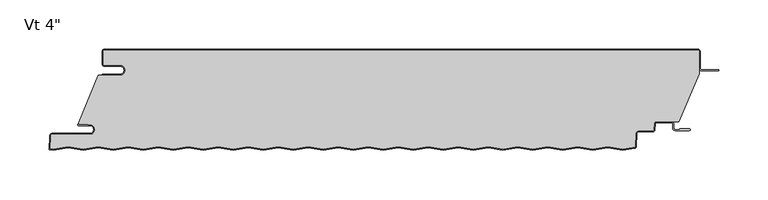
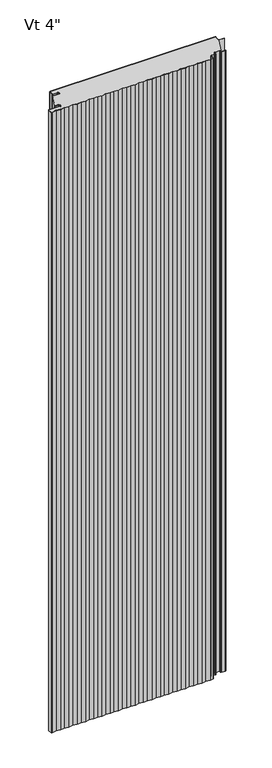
"""IFC4 building model written with IfcOpenShell, lengths in millimetres: plate geometry."""

from ifc_helpers import new_model, si_unit, point, frame, frame_2d, origin, origin_with_axes, place, context, project, spatial, polyline, circle_curve, ellipse_curve, trimmed, segment, composite_curve, outline, extrude, source, transform, mapped, element, save
from ifc_brep_helpers import plane_surface, cylinder_surface, revolved_surface, extruded_surface, advanced_brep


def plate_ed56b437(model_context):
    return source(origin(), model_context, "Body", "SolidModel", [
        extrude(outline(composite_curve([segment(polyline([(-285.74375, -16.4625), (-301.61875, -16.4625)]), True, "CONTINUOUS"), segment(trimmed(circle_curve(frame_2d((-301.61875, -15.08125)), 1.38125), [point((-301.61875, -16.4625))], [point((-303.0, -15.08125))], False, "CARTESIAN"), True, "CONTINUOUS"), segment(polyline([(-303.0, -15.08125), (-303.0, -2.38125)]), True, "CONTINUOUS"), segment(trimmed(circle_curve(frame_2d((-301.61875, -2.38125)), 1.38125), [point((-303.0, -2.38125))], [point((-301.61875, -1.0))], False, "CARTESIAN"), True, "CONTINUOUS"), segment(polyline([(-301.61875, -1.0), (301.63125, -1.0)]), True, "CONTINUOUS"), segment(trimmed(circle_curve(frame_2d((301.63125, -2.38125)), 1.38125), [point((301.63125, -1.0))], [point((303.0125, -2.38125))], False, "CARTESIAN"), True, "CONTINUOUS"), segment(polyline([(303.0125, -2.38125), (303.0125, -24.9057308), (282.1955434, -73.6125), (259.7540783, -73.6125)]), True, "CONTINUOUS"), segment(trimmed(circle_curve(frame_2d((259.7540783, -76.2)), 2.5875), [point((259.7540783, -73.6125))], [point((257.1701244, -76.0645807))], True, "CARTESIAN"), True, "CONTINUOUS"), segment(polyline([(257.1701244, -76.0645807), (256.8680481, -81.828539)]), True, "CONTINUOUS"), segment(trimmed(circle_curve(frame_2d((255.4886911, -81.75625)), 1.38125), [point((256.8680481, -81.828539))], [point((255.4886911, -83.1375))], False, "CARTESIAN"), True, "CONTINUOUS"), segment(polyline([(255.4886911, -83.1375), (241.3323847, -83.1375)]), True, "CONTINUOUS"), segment(trimmed(circle_curve(frame_2d((241.3323847, -85.725)), 2.5875), [point((241.3323847, -83.1375))], [point((238.7484307, -85.5895807))], True, "CARTESIAN"), True, "CONTINUOUS"), segment(polyline([(238.7484307, -85.5895807), (238.0106485, -99.6673048), (225.2725, -101.7054086), (210.2350675, -99.2994194), (194.9950675, -101.7378194), (179.7550675, -99.2994194), (164.5150675, -101.7378194), (149.2750675, -99.2994194), (134.0350675, -101.7378194), (118.7950675, -99.2994194), (103.5550675, -101.7378194), (88.3150675, -99.2994194), (73.0750675, -101.7378194), (57.8350675, -99.2994194), (42.5950675, -101.7378194), (27.3550675, -99.2994194), (12.1150675, -101.7378194), (-3.1249325, -99.2994194), (-18.3649325, -101.7378194), (-33.6049325, -99.2994194), (-48.8449325, -101.7378194), (-64.0849325, -99.2994194), (-79.3249325, -101.7378194), (-94.5649325, -99.2994194), (-109.8049325, -101.7378194), (-125.0449325, -99.2994194), (-140.2849325, -101.7378194), (-155.5249325, -99.2994194), (-170.7649325, -101.7378194), (-186.0049325, -99.2994194), (-201.2449325, -101.7378194), (-216.4849325, -99.2994194), (-231.7249325, -101.7378194), (-246.9649325, -99.2994194), (-262.2049325, -101.7378194), (-277.4449325, -99.2994194), (-292.6849325, -101.7378194), (-307.9249325, -99.2994194), (-323.1649325, -101.7378194), (-338.4049325, -99.2994194), (-353.6449325, -101.7378194), (-356.9672594, -101.2062471), (-356.2769291, -88.033961)]), True, "CONTINUOUS"), segment(trimmed(circle_curve(frame_2d((-354.8975721, -88.10625)), 1.38125), [point((-356.2769291, -88.033961))], [point((-354.8975721, -86.725))], False, "CARTESIAN"), True, "CONTINUOUS"), segment(polyline([(-354.8975721, -86.725), (-316.7142674, -86.725)]), True, "CONTINUOUS"), segment(trimmed(circle_curve(frame_2d((-316.7142674, -81.75625)), 4.96875), [point((-316.7142674, -86.725))], [point((-316.7142674, -76.7875))], True, "CARTESIAN"), True, "CONTINUOUS"), segment(polyline([(-316.7142674, -76.7875), (-318.3017674, -76.99375), (-318.3017674, -76.2), (-327.8125, -76.2), (-327.8125, -74.6157227), (-307.9260922, -26.4), (-285.74375, -26.4)]), True, "CONTINUOUS"), segment(trimmed(circle_curve(frame_2d((-285.74375, -21.43125)), 4.96875), [point((-285.74375, -26.4))], [point((-285.74375, -16.4625))], True, "CARTESIAN"), True, "CONTINUOUS")], self_intersect=False)), origin_with_axes(), (0.0, 0.0, 1.0), 2400.0),
        extrude(outline(composite_curve([segment(polyline([(-304.0, -25.4), (-285.74375, -25.4)]), True, "CONTINUOUS"), segment(trimmed(circle_curve(frame_2d((-285.74375, -21.43125)), 3.96875), [point((-285.74375, -25.4))], [point((-285.74375, -17.4625))], True, "CARTESIAN"), True, "CONTINUOUS"), segment(polyline([(-285.74375, -17.4625), (-301.61875, -17.4625)]), True, "CONTINUOUS"), segment(trimmed(circle_curve(frame_2d((-301.61875, -15.08125)), 2.38125), [point((-301.61875, -17.4625))], [point((-304.0, -15.08125))], False, "CARTESIAN"), True, "CONTINUOUS"), segment(polyline([(-304.0, -15.08125), (-304.0, -2.38125)]), True, "CONTINUOUS"), segment(trimmed(circle_curve(frame_2d((-301.61875, -2.38125)), 2.38125), [point((-304.0, -2.38125))], [point((-301.61875, 0.0))], False, "CARTESIAN"), True, "CONTINUOUS"), segment(polyline([(-301.61875, 0.0), (301.63125, 0.0)]), True, "CONTINUOUS"), segment(trimmed(circle_curve(frame_2d((301.63125, -2.38125)), 2.38125), [point((301.63125, 0.0))], [point((304.0125, -2.38125))], False, "CARTESIAN"), True, "CONTINUOUS"), segment(polyline([(304.0125, -2.38125), (304.0125, -19.446875)]), True, "CONTINUOUS"), segment(trimmed(circle_curve(frame_2d((305.6, -19.446875)), 1.5875), [point((304.0125, -19.446875))], [point((305.6, -21.034375))], True, "CARTESIAN"), True, "CONTINUOUS"), segment(polyline([(305.6, -21.034375), (323.0625, -21.034375), (323.0625, -22.034375), (305.6, -22.034375)]), True, "CONTINUOUS"), segment(trimmed(circle_curve(frame_2d((305.6, -19.446875)), 2.5875), [point((305.6, -22.034375))], [point((303.0125, -19.446875))], False, "CARTESIAN"), True, "CONTINUOUS"), segment(polyline([(303.0125, -19.446875), (303.0125, -2.38125)]), True, "CONTINUOUS"), segment(trimmed(circle_curve(frame_2d((301.63125, -2.38125)), 1.38125), [point((303.0125, -2.38125))], [point((301.63125, -1.0))], True, "CARTESIAN"), True, "CONTINUOUS"), segment(polyline([(301.63125, -1.0), (-301.61875, -1.0)]), True, "CONTINUOUS"), segment(trimmed(circle_curve(frame_2d((-301.61875, -2.38125)), 1.38125), [point((-301.61875, -1.0))], [point((-303.0, -2.38125))], True, "CARTESIAN"), True, "CONTINUOUS"), segment(polyline([(-303.0, -2.38125), (-303.0, -15.08125)]), True, "CONTINUOUS"), segment(trimmed(circle_curve(frame_2d((-301.61875, -15.08125)), 1.38125), [point((-303.0, -15.08125))], [point((-301.61875, -16.4625))], True, "CARTESIAN"), True, "CONTINUOUS"), segment(polyline([(-301.61875, -16.4625), (-285.74375, -16.4625)]), True, "CONTINUOUS"), segment(trimmed(circle_curve(frame_2d((-285.74375, -21.43125)), 4.96875), [point((-285.74375, -16.4625))], [point((-285.74375, -26.4))], False, "CARTESIAN"), True, "CONTINUOUS"), segment(polyline([(-285.74375, -26.4), (-304.0, -26.4), (-304.0, -25.4)]), True, "CONTINUOUS")], self_intersect=False)), origin_with_axes(), (0.0, 0.0, 1.0), 2400.0),
        advanced_brep(
        [(-328.0252049, -76.2, 2400.0), (-328.0252049, -77.7875, 2400.0), (-316.7142674, -77.7875, 2400.0), (-316.7142674, -85.725, 2400.0), (-354.8975721, -85.725, 2400.0), (-357.2755586, -87.981625, 2400.0), (-358.01832, -102.1543553, 2400.0), (-353.6646686, -102.8509395, 2400.0), (-338.4246686, -100.4125395, 2400.0), (-323.1846686, -102.8509395, 2400.0), (-307.9446686, -100.4125395, 2400.0), (-292.7046686, -102.8509395, 2400.0), (-277.4646686, -100.4125395, 2400.0), (-262.2246686, -102.8509395, 2400.0), (-246.9846686, -100.4125395, 2400.0), (-231.7446686, -102.8509395, 2400.0), (-216.5046686, -100.4125395, 2400.0), (-201.2646686, -102.8509395, 2400.0), (-186.0246686, -100.4125395, 2400.0), (-170.7846686, -102.8509395, 2400.0), (-155.5446686, -100.4125395, 2400.0), (-140.3046686, -102.8509395, 2400.0), (-125.0646686, -100.4125395, 2400.0), (-109.8246686, -102.8509395, 2400.0), (-94.5846686, -100.4125395, 2400.0), (-79.3446686, -102.8509395, 2400.0), (-64.1046686, -100.4125395, 2400.0), (-48.8646686, -102.8509395, 2400.0), (-33.6246686, -100.4125395, 2400.0), (-18.3846686, -102.8509395, 2400.0), (-3.1446686, -100.4125395, 2400.0), (12.0953314, -102.8509395, 2400.0), (27.3353314, -100.4125395, 2400.0), (42.5753314, -102.8509395, 2400.0), (57.8153314, -100.4125395, 2400.0), (73.0553314, -102.8509395, 2400.0), (88.2953314, -100.4125395, 2400.0), (103.5353314, -102.8509395, 2400.0), (118.7753314, -100.4125395, 2400.0), (134.0153314, -102.8509395, 2400.0), (149.2553314, -100.4125395, 2400.0), (164.4953314, -102.8509395, 2400.0), (179.7353314, -100.4125395, 2400.0), (194.9753314, -102.8509395, 2400.0), (210.2153314, -100.4125395, 2400.0), (225.2527639, -102.8185287, 2400.0), (237.6944828, -100.8278537, 2400.0), (239.0289973, -99.343375, 2400.0), (239.7470603, -85.6419167, 2400.0), (241.3323847, -84.1375, 2400.0), (255.4886911, -84.1375, 2400.0), (257.8666776, -81.880875, 2400.0), (258.1687539, -76.1169167, 2400.0), (259.7540783, -74.6125, 2400.0), (274.6294826, -74.6125, 2400.0), (276.2169826, -76.2, 2400.0), (276.2169826, -80.3671875, 2400.0), (278.5982326, -82.7484375, 2400.0), (293.0898532, -82.7484375, 2400.0), (293.0898532, -80.9546875, 2400.0), (283.3607326, -80.9546875, 2400.0), (283.3607326, -81.7484375, 2400.0), (278.5982326, -81.7484375, 2400.0), (277.2169826, -80.3671875, 2400.0), (277.2169826, -76.2, 2400.0), (274.6294826, -73.6125, 2400.0), (259.7540783, -73.6125, 2400.0), (257.1701244, -76.0645807, 2400.0), (256.8680481, -81.828539, 2400.0), (255.4886911, -83.1375, 2400.0), (241.3323847, -83.1375, 2400.0), (238.7484307, -85.5895807, 2400.0), (238.0303677, -99.291039, 2400.0), (237.5364923, -99.840413, 2400.0), (225.2527639, -101.8058096, 2400.0), (210.2153314, -99.3998204, 2400.0), (194.9753314, -101.8382204, 2400.0), (179.7353314, -99.3998204, 2400.0), (164.4953314, -101.8382204, 2400.0), (149.2553314, -99.3998204, 2400.0), (134.0153314, -101.8382204, 2400.0), (118.7753314, -99.3998204, 2400.0), (103.5353314, -101.8382204, 2400.0), (88.2953314, -99.3998204, 2400.0), (73.0553314, -101.8382204, 2400.0), (57.8153314, -99.3998204, 2400.0), (42.5753314, -101.8382204, 2400.0), (27.3353314, -99.3998204, 2400.0), (12.0953314, -101.8382204, 2400.0), (-3.1446686, -99.3998204, 2400.0), (-18.3846686, -101.8382204, 2400.0), (-33.6246686, -99.3998204, 2400.0), (-48.8646686, -101.8382204, 2400.0), (-64.1046686, -99.3998204, 2400.0), (-79.3446686, -101.8382204, 2400.0), (-94.5846686, -99.3998204, 2400.0), (-109.8246686, -101.8382204, 2400.0), (-125.0646686, -99.3998204, 2400.0), (-140.3046686, -101.8382204, 2400.0), (-155.5446686, -99.3998204, 2400.0), (-170.7846686, -101.8382204, 2400.0), (-186.0246686, -99.3998204, 2400.0), (-201.2646686, -101.8382204, 2400.0), (-216.5046686, -99.3998204, 2400.0), (-231.7446686, -101.8382204, 2400.0), (-246.9846686, -99.3998204, 2400.0), (-262.2246686, -101.8382204, 2400.0), (-277.4646686, -99.3998204, 2400.0), (-292.7046686, -101.8382204, 2400.0), (-307.9446686, -99.3998204, 2400.0), (-323.1846686, -101.8382204, 2400.0), (-338.4246686, -99.3998204, 2400.0), (-353.6646686, -101.8382204, 2400.0), (-356.9726415, -101.3089447, 2400.0), (-356.2769291, -88.033961, 2400.0), (-354.8975721, -86.725, 2400.0), (-316.7142674, -86.725, 2400.0), (-316.7142674, -76.7875, 2400.0), (-318.3017674, -76.99375, 2400.0), (-318.3017674, -76.2, 2400.0), (-328.0252049, -76.2, 0.0), (-318.3017674, -76.2, 0.0), (-318.3017674, -76.99375, 0.0), (-316.7142674, -76.7875, 0.0), (-316.7142674, -86.725, 0.0), (-354.8975721, -86.725, 0.0), (-356.2769291, -88.033961, 0.0), (-356.9726415, -101.3089447, 0.0), (-353.6646686, -101.8382204, 0.0), (-338.4246686, -99.3998204, 0.0), (-323.1846686, -101.8382204, 0.0), (-307.9446686, -99.3998204, 0.0), (-292.7046686, -101.8382204, 0.0), (-277.4646686, -99.3998204, 0.0), (-262.2246686, -101.8382204, 0.0), (-246.9846686, -99.3998204, 0.0), (-231.7446686, -101.8382204, 0.0), (-216.5046686, -99.3998204, 0.0), (-201.2646686, -101.8382204, 0.0), (-186.0246686, -99.3998204, 0.0), (-170.7846686, -101.8382204, 0.0), (-155.5446686, -99.3998204, 0.0), (-140.3046686, -101.8382204, 0.0), (-125.0646686, -99.3998204, 0.0), (-109.8246686, -101.8382204, 0.0), (-94.5846686, -99.3998204, 0.0), (-79.3446686, -101.8382204, 0.0), (-64.1046686, -99.3998204, 0.0), (-48.8646686, -101.8382204, 0.0), (-33.6246686, -99.3998204, 0.0), (-18.3846686, -101.8382204, 0.0), (-3.1446686, -99.3998204, 0.0), (12.0953314, -101.8382204, 0.0), (27.3353314, -99.3998204, 0.0), (42.5753314, -101.8382204, 0.0), (57.8153314, -99.3998204, 0.0), (73.0553314, -101.8382204, 0.0), (88.2953314, -99.3998204, 0.0), (103.5353314, -101.8382204, 0.0), (118.7753314, -99.3998204, 0.0), (134.0153314, -101.8382204, 0.0), (149.2553314, -99.3998204, 0.0), (164.4953314, -101.8382204, 0.0), (179.7353314, -99.3998204, 0.0), (194.9753314, -101.8382204, 0.0), (210.2153314, -99.3998204, 0.0), (225.2527639, -101.8058096, 0.0), (237.5364923, -99.840413, 0.0), (238.0303677, -99.291039, 0.0), (238.7484307, -85.5895807, 0.0), (241.3323847, -83.1375, 0.0), (255.4886911, -83.1375, 0.0), (256.8680481, -81.828539, 0.0), (257.1701244, -76.0645807, 0.0), (259.7540783, -73.6125, 0.0), (274.6294826, -73.6125, 0.0), (277.2169826, -76.2, 0.0), (277.2169826, -80.3671875, 0.0), (278.5982326, -81.7484375, 0.0), (283.3607326, -81.7484375, 0.0), (283.3607326, -80.9546875, 0.0), (293.0898532, -80.9546875, 0.0), (293.0898532, -82.7484375, 0.0), (278.5982326, -82.7484375, 0.0), (276.2169826, -80.3671875, 0.0), (276.2169826, -76.2, 0.0), (274.6294826, -74.6125, 0.0), (259.7540783, -74.6125, 0.0), (258.1687539, -76.1169167, 0.0), (257.8666776, -81.880875, 0.0), (255.4886911, -84.1375, 0.0), (241.3323847, -84.1375, 0.0), (239.7470603, -85.6419167, 0.0), (239.0289973, -99.343375, 0.0), (237.6944828, -100.8278537, 0.0), (225.2527639, -102.8185287, 0.0), (210.2153314, -100.4125395, 0.0), (194.9753314, -102.8509395, 0.0), (179.7353314, -100.4125395, 0.0), (164.4953314, -102.8509395, 0.0), (149.2553314, -100.4125395, 0.0), (134.0153314, -102.8509395, 0.0), (118.7753314, -100.4125395, 0.0), (103.5353314, -102.8509395, 0.0), (88.2953314, -100.4125395, 0.0), (73.0553314, -102.8509395, 0.0), (57.8153314, -100.4125395, 0.0), (42.5753314, -102.8509395, 0.0), (27.3353314, -100.4125395, 0.0), (12.0953314, -102.8509395, 0.0), (-3.1446686, -100.4125395, 0.0), (-18.3846686, -102.8509395, 0.0), (-33.6246686, -100.4125395, 0.0), (-48.8646686, -102.8509395, 0.0), (-64.1046686, -100.4125395, 0.0), (-79.3446686, -102.8509395, 0.0), (-94.5846686, -100.4125395, 0.0), (-109.8246686, -102.8509395, 0.0), (-125.0646686, -100.4125395, 0.0), (-140.3046686, -102.8509395, 0.0), (-155.5446686, -100.4125395, 0.0), (-170.7846686, -102.8509395, 0.0), (-186.0246686, -100.4125395, 0.0), (-201.2646686, -102.8509395, 0.0), (-216.5046686, -100.4125395, 0.0), (-231.7446686, -102.8509395, 0.0), (-246.9846686, -100.4125395, 0.0), (-262.2246686, -102.8509395, 0.0), (-277.4646686, -100.4125395, 0.0), (-292.7046686, -102.8509395, 0.0), (-307.9446686, -100.4125395, 0.0), (-323.1846686, -102.8509395, 0.0), (-338.4246686, -100.4125395, 0.0), (-353.6646686, -102.8509395, 0.0), (-358.01832, -102.1543553, 0.0), (-357.2755586, -87.981625, 0.0), (-354.8975721, -85.725, 0.0), (-316.7142674, -85.725, 0.0), (-316.7142674, -77.7875, 0.0), (-328.0252049, -77.7875, 0.0)],
        [
            (0, 1, circle_curve(frame((-328.0252049, -76.99375, 2400.0), z_axis=(0.0, 0.0, 1.0), x_axis=(1.0, 0.0, 0.0)), 0.79375)),
            (1, 2),
            (2, 3, circle_curve(frame((-316.7142674, -81.75625, 2400.0), z_axis=(0.0, 0.0, -1.0), x_axis=(1.0, 0.0, 0.0)), 3.96875)),
            (3, 4),
            (4, 5, circle_curve(frame((-354.8975721, -88.10625, 2400.0), z_axis=(0.0, 0.0, 1.0), x_axis=(1.0, 0.0, 0.0)), 2.38125)),
            (5, 6),
            (6, 7),
            (7, 8),
            (8, 9),
            (9, 10),
            (10, 11),
            (11, 12),
            (12, 13),
            (13, 14),
            (14, 15),
            (15, 16),
            (16, 17),
            (17, 18),
            (18, 19),
            (19, 20),
            (20, 21),
            (21, 22),
            (22, 23),
            (23, 24),
            (24, 25),
            (25, 26),
            (26, 27),
            (27, 28),
            (28, 29),
            (29, 30),
            (30, 31),
            (31, 32),
            (32, 33),
            (33, 34),
            (34, 35),
            (35, 36),
            (36, 37),
            (37, 38),
            (38, 39),
            (39, 40),
            (40, 41),
            (41, 42),
            (42, 43),
            (43, 44),
            (44, 45),
            (45, 46),
            (46, 47, circle_curve(frame((237.4436729, -99.2602917, 2400.0), z_axis=(0.0, 0.0, 1.0), x_axis=(1.0, 0.0, 0.0)), 1.5875)),
            (47, 48),
            (48, 49, circle_curve(frame((241.3323847, -85.725, 2400.0), z_axis=(0.0, 0.0, -1.0), x_axis=(1.0, 0.0, 0.0)), 1.5875)),
            (49, 50),
            (50, 51, circle_curve(frame((255.4886911, -81.75625, 2400.0), z_axis=(0.0, 0.0, 1.0), x_axis=(1.0, 0.0, 0.0)), 2.38125)),
            (51, 52),
            (52, 53, circle_curve(frame((259.7540783, -76.2, 2400.0), z_axis=(0.0, 0.0, -1.0), x_axis=(1.0, 0.0, 0.0)), 1.5875)),
            (53, 54),
            (54, 55, circle_curve(frame((274.6294826, -76.2, 2400.0), z_axis=(0.0, 0.0, -1.0), x_axis=(1.0, 0.0, 0.0)), 1.5875)),
            (55, 56),
            (56, 57, circle_curve(frame((278.5982326, -80.3671875, 2400.0), z_axis=(0.0, 0.0, 1.0), x_axis=(1.0, 0.0, 0.0)), 2.38125)),
            (57, 58),
            (58, 59, ellipse_curve(frame((293.0898532, -81.8515625, 2400.0), z_axis=(0.0, 0.0, 1.0), x_axis=(0.0, 1.0, 0.0)), 0.896875, 0.7852275)),
            (59, 60),
            (60, 61),
            (61, 62),
            (62, 63, circle_curve(frame((278.5982326, -80.3671875, 2400.0), z_axis=(0.0, 0.0, -1.0), x_axis=(1.0, 0.0, 0.0)), 1.38125)),
            (63, 64),
            (64, 65, circle_curve(frame((274.6294826, -76.2, 2400.0), z_axis=(0.0, 0.0, 1.0), x_axis=(1.0, 0.0, 0.0)), 2.5875)),
            (65, 66),
            (66, 67, circle_curve(frame((259.7540783, -76.2, 2400.0), z_axis=(0.0, 0.0, 1.0), x_axis=(1.0, 0.0, 0.0)), 2.5875)),
            (67, 68),
            (68, 69, circle_curve(frame((255.4886911, -81.75625, 2400.0), z_axis=(0.0, 0.0, -1.0), x_axis=(1.0, 0.0, 0.0)), 1.38125)),
            (69, 70),
            (70, 71, circle_curve(frame((241.3323847, -85.725, 2400.0), z_axis=(0.0, 0.0, 1.0), x_axis=(1.0, 0.0, 0.0)), 2.5875)),
            (71, 72),
            (72, 73, circle_curve(frame((237.4436729, -99.2602917, 2400.0), z_axis=(0.0, 0.0, -1.0), x_axis=(1.0, 0.0, 0.0)), 0.5875)),
            (73, 74),
            (74, 75),
            (75, 76),
            (76, 77),
            (77, 78),
            (78, 79),
            (79, 80),
            (80, 81),
            (81, 82),
            (82, 83),
            (83, 84),
            (84, 85),
            (85, 86),
            (86, 87),
            (87, 88),
            (88, 89),
            (89, 90),
            (90, 91),
            (91, 92),
            (92, 93),
            (93, 94),
            (94, 95),
            (95, 96),
            (96, 97),
            (97, 98),
            (98, 99),
            (99, 100),
            (100, 101),
            (101, 102),
            (102, 103),
            (103, 104),
            (104, 105),
            (105, 106),
            (106, 107),
            (107, 108),
            (108, 109),
            (109, 110),
            (110, 111),
            (111, 112),
            (112, 113),
            (113, 114),
            (114, 115, circle_curve(frame((-354.8975721, -88.10625, 2400.0), z_axis=(0.0, 0.0, -1.0), x_axis=(1.0, 0.0, 0.0)), 1.38125)),
            (115, 116),
            (116, 117, circle_curve(frame((-316.7142674, -81.75625, 2400.0), z_axis=(0.0, 0.0, 1.0), x_axis=(1.0, 0.0, 0.0)), 4.96875)),
            (117, 118),
            (118, 119),
            (119, 0),
            (120, 121),
            (121, 122),
            (122, 123),
            (123, 124, circle_curve(frame((-316.7142674, -81.75625, 0.0), z_axis=(0.0, 0.0, -1.0), x_axis=(1.0, 0.0, 0.0)), 4.96875)),
            (124, 125),
            (125, 126, circle_curve(frame((-354.8975721, -88.10625, 0.0), z_axis=(0.0, 0.0, 1.0), x_axis=(1.0, 0.0, 0.0)), 1.38125)),
            (126, 127),
            (127, 128),
            (128, 129),
            (129, 130),
            (130, 131),
            (131, 132),
            (132, 133),
            (133, 134),
            (134, 135),
            (135, 136),
            (136, 137),
            (137, 138),
            (138, 139),
            (139, 140),
            (140, 141),
            (141, 142),
            (142, 143),
            (143, 144),
            (144, 145),
            (145, 146),
            (146, 147),
            (147, 148),
            (148, 149),
            (149, 150),
            (150, 151),
            (151, 152),
            (152, 153),
            (153, 154),
            (154, 155),
            (155, 156),
            (156, 157),
            (157, 158),
            (158, 159),
            (159, 160),
            (160, 161),
            (161, 162),
            (162, 163),
            (163, 164),
            (164, 165),
            (165, 166),
            (166, 167),
            (167, 168, circle_curve(frame((237.4436729, -99.2602917, 0.0), z_axis=(0.0, 0.0, 1.0), x_axis=(1.0, 0.0, 0.0)), 0.5875)),
            (168, 169),
            (169, 170, circle_curve(frame((241.3323847, -85.725, 0.0), z_axis=(0.0, 0.0, -1.0), x_axis=(1.0, 0.0, 0.0)), 2.5875)),
            (170, 171),
            (171, 172, circle_curve(frame((255.4886911, -81.75625, 0.0), z_axis=(0.0, 0.0, 1.0), x_axis=(1.0, 0.0, 0.0)), 1.38125)),
            (172, 173),
            (173, 174, circle_curve(frame((259.7540783, -76.2, 0.0), z_axis=(0.0, 0.0, -1.0), x_axis=(1.0, 0.0, 0.0)), 2.5875)),
            (174, 175),
            (175, 176, circle_curve(frame((274.6294826, -76.2, 0.0), z_axis=(0.0, 0.0, -1.0), x_axis=(1.0, 0.0, 0.0)), 2.5875)),
            (176, 177),
            (177, 178, circle_curve(frame((278.5982326, -80.3671875, 0.0), z_axis=(0.0, 0.0, 1.0), x_axis=(1.0, 0.0, 0.0)), 1.38125)),
            (178, 179),
            (179, 180),
            (180, 181),
            (181, 182, ellipse_curve(frame((293.0898532, -81.8515625, 0.0), z_axis=(0.0, 0.0, -1.0), x_axis=(0.0, 1.0, 0.0)), 0.896875, 0.7852275)),
            (182, 183),
            (183, 184, circle_curve(frame((278.5982326, -80.3671875, 0.0), z_axis=(0.0, 0.0, -1.0), x_axis=(1.0, 0.0, 0.0)), 2.38125)),
            (184, 185),
            (185, 186, circle_curve(frame((274.6294826, -76.2, 0.0), z_axis=(0.0, 0.0, 1.0), x_axis=(1.0, 0.0, 0.0)), 1.5875)),
            (186, 187),
            (187, 188, circle_curve(frame((259.7540783, -76.2, 0.0), z_axis=(0.0, 0.0, 1.0), x_axis=(1.0, 0.0, 0.0)), 1.5875)),
            (188, 189),
            (189, 190, circle_curve(frame((255.4886911, -81.75625, 0.0), z_axis=(0.0, 0.0, -1.0), x_axis=(1.0, 0.0, 0.0)), 2.38125)),
            (190, 191),
            (191, 192, circle_curve(frame((241.3323847, -85.725, 0.0), z_axis=(0.0, 0.0, 1.0), x_axis=(1.0, 0.0, 0.0)), 1.5875)),
            (192, 193),
            (193, 194, circle_curve(frame((237.4436729, -99.2602917, 0.0), z_axis=(0.0, 0.0, -1.0), x_axis=(1.0, 0.0, 0.0)), 1.5875)),
            (194, 195),
            (195, 196),
            (196, 197),
            (197, 198),
            (198, 199),
            (199, 200),
            (200, 201),
            (201, 202),
            (202, 203),
            (203, 204),
            (204, 205),
            (205, 206),
            (206, 207),
            (207, 208),
            (208, 209),
            (209, 210),
            (210, 211),
            (211, 212),
            (212, 213),
            (213, 214),
            (214, 215),
            (215, 216),
            (216, 217),
            (217, 218),
            (218, 219),
            (219, 220),
            (220, 221),
            (221, 222),
            (222, 223),
            (223, 224),
            (224, 225),
            (225, 226),
            (226, 227),
            (227, 228),
            (228, 229),
            (229, 230),
            (230, 231),
            (231, 232),
            (232, 233),
            (233, 234),
            (234, 235),
            (235, 236, circle_curve(frame((-354.8975721, -88.10625, 0.0), z_axis=(0.0, 0.0, -1.0), x_axis=(1.0, 0.0, 0.0)), 2.38125)),
            (236, 237),
            (237, 238, circle_curve(frame((-316.7142674, -81.75625, 0.0), z_axis=(0.0, 0.0, 1.0), x_axis=(1.0, 0.0, 0.0)), 3.96875)),
            (238, 239),
            (239, 120, circle_curve(frame((-328.0252049, -76.99375, 0.0), z_axis=(0.0, 0.0, -1.0), x_axis=(1.0, 0.0, 0.0)), 0.79375)),
            (119, 121),
            (120, 0),
            (239, 1),
            (238, 2),
            (237, 3),
            (236, 4),
            (235, 5),
            (234, 6),
            (48, 192),
            (191, 49),
            (190, 50),
            (189, 51),
            (188, 52),
            (187, 53),
            (114, 126),
            (125, 115),
            (113, 127),
            (70, 170),
            (169, 71),
            (69, 171),
            (68, 172),
            (67, 173),
            (66, 174),
            (61, 179),
            (178, 62),
            (177, 63),
            (176, 64),
            (186, 54),
            (185, 55),
            (184, 56),
            (183, 57),
            (182, 58),
            (65, 175),
            (124, 116),
            (123, 117),
            (118, 122),
            (60, 180),
            (59, 181),
            (47, 193),
            (168, 72),
            (44, 196),
            (195, 45),
            (74, 166),
            (165, 75),
            (164, 76),
            (163, 77),
            (162, 78),
            (161, 79),
            (160, 80),
            (159, 81),
            (158, 82),
            (157, 83),
            (156, 84),
            (155, 85),
            (154, 86),
            (153, 87),
            (152, 88),
            (151, 89),
            (107, 133),
            (132, 108),
            (131, 109),
            (130, 110),
            (129, 111),
            (106, 134),
            (105, 135),
            (104, 136),
            (103, 137),
            (102, 138),
            (101, 139),
            (100, 140),
            (99, 141),
            (98, 142),
            (97, 143),
            (96, 144),
            (95, 145),
            (94, 146),
            (93, 147),
            (92, 148),
            (91, 149),
            (90, 150),
            (128, 112),
            (233, 7),
            (232, 8),
            (231, 9),
            (230, 10),
            (229, 11),
            (228, 12),
            (227, 13),
            (226, 14),
            (225, 15),
            (224, 16),
            (223, 17),
            (222, 18),
            (30, 210),
            (209, 31),
            (208, 32),
            (207, 33),
            (206, 34),
            (205, 35),
            (204, 36),
            (203, 37),
            (202, 38),
            (201, 39),
            (200, 40),
            (199, 41),
            (198, 42),
            (197, 43),
            (194, 46),
            (167, 73),
            (29, 211),
            (28, 212),
            (27, 213),
            (26, 214),
            (25, 215),
            (24, 216),
            (23, 217),
            (22, 218),
            (21, 219),
            (20, 220),
            (19, 221),
        ],
        [
            plane_surface(frame((0.00625, -101.6, 2400.0), z_axis=(0.0, 0.0, 1.0), x_axis=(0.0, -1.0, 0.0))),
            plane_surface(frame((0.00625, -101.6, 0.0), z_axis=(0.0, 0.0, -1.0), x_axis=(0.0, -1.0, 0.0))),
            plane_surface(frame((-328.0252049, -76.2, 2400.0), z_axis=(0.0, 1.0, 0.0), x_axis=(0.0, 0.0, -1.0))),
            cylinder_surface(frame((-328.0252049, -76.99375, 2400.0), z_axis=(0.0, 0.0, 1.0), x_axis=(1.0, 0.0, 0.0)), 0.79375),
            plane_surface(frame((-316.7142674, -77.7875, 2400.0), z_axis=(0.0, -1.0, 0.0), x_axis=(0.0, 0.0, -1.0))),
            revolved_surface(polyline([(-312.7455174, -81.75625, 0.0), (-312.7455174, -81.75625, 2400.0)]), (-316.7142674, -81.75625, 2400.0), (0.0, 0.0, -1.0)),
            plane_surface(frame((-354.8975721, -85.725, 2400.0), z_axis=(0.0, 1.0, 0.0), x_axis=(0.0, 0.0, -1.0))),
            cylinder_surface(frame((-354.8975721, -88.10625, 2400.0), z_axis=(0.0, 0.0, 1.0), x_axis=(1.0, 0.0, 0.0)), 2.38125),
            plane_surface(frame((-358.01832, -102.1543553, 2400.0), z_axis=(-0.9986295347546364, 0.05233595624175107, 0.0), x_axis=(0.0, 0.0, -1.0))),
            revolved_surface(polyline([(242.9198847, -85.725, 0.0), (242.9198847, -85.725, 2400.0)]), (241.3323847, -85.725, 2400.0), (0.0, 0.0, -1.0)),
            plane_surface(frame((255.4886911, -84.1375, 2400.0), z_axis=(0.0, -1.0, 0.0), x_axis=(0.0, 0.0, -1.0))),
            cylinder_surface(frame((255.4886911, -81.75625, 2400.0), z_axis=(0.0, 0.0, 1.0), x_axis=(1.0, 0.0, 0.0)), 2.38125),
            plane_surface(frame((258.1687539, -76.1169167, 2400.0), z_axis=(0.9986295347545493, -0.052335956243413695, 0.0), x_axis=(0.0, 0.0, -1.0))),
            revolved_surface(polyline([(261.3415783, -76.2, 0.0), (261.3415783, -76.2, 2400.0)]), (259.7540783, -76.2, 2400.0), (0.0, 0.0, -1.0)),
            revolved_surface(polyline([(-353.51632209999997, -88.10625, 0.0), (-353.51632209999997, -88.10625, 2400.0)]), (-354.8975721, -88.10625, 2400.0), (0.0, 0.0, -1.0)),
            plane_surface(frame((-356.2769291, -88.033961, 2400.0), z_axis=(0.9986295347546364, -0.05233595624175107, 0.0), x_axis=(0.0, 0.0, -1.0))),
            cylinder_surface(frame((241.3323847, -85.725, 2400.0), z_axis=(0.0, 0.0, 1.0), x_axis=(1.0, 0.0, 0.0)), 2.5875),
            plane_surface(frame((241.3323847, -83.1375, 2400.0), z_axis=(0.0, 1.0, 0.0), x_axis=(0.0, 0.0, -1.0))),
            revolved_surface(polyline([(256.8699411, -81.75625, 0.0), (256.8699411, -81.75625, 2400.0)]), (255.4886911, -81.75625, 2400.0), (0.0, 0.0, -1.0)),
            plane_surface(frame((256.8680481, -81.828539, 2400.0), z_axis=(-0.998629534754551, 0.05233595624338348, 0.0), x_axis=(0.0, 0.0, -1.0))),
            cylinder_surface(frame((259.7540783, -76.2, 2400.0), z_axis=(0.0, 0.0, 1.0), x_axis=(1.0, 0.0, 0.0)), 2.5875),
            plane_surface(frame((278.5982326, -81.7484375, 2400.0), z_axis=(0.0, 1.0, 0.0), x_axis=(0.0, 0.0, -1.0))),
            revolved_surface(polyline([(279.97948260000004, -80.3671875, 0.0), (279.97948260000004, -80.3671875, 2400.0)]), (278.5982326, -80.3671875, 2400.0), (0.0, 0.0, -1.0)),
            plane_surface(frame((277.2169826, -76.2, 2400.0), z_axis=(1.0, 0.0, 0.0), x_axis=(0.0, 0.0, -1.0))),
            plane_surface(frame((274.6294826, -74.6125, 2400.0), z_axis=(0.0, -1.0, 0.0), x_axis=(0.0, 0.0, -1.0))),
            revolved_surface(polyline([(276.2169826, -76.2, 0.0), (276.2169826, -76.2, 2400.0)]), (274.6294826, -76.2, 2400.0), (0.0, 0.0, -1.0)),
            plane_surface(frame((276.2169826, -80.3671875, 2400.0), z_axis=(-1.0, 0.0, 0.0), x_axis=(0.0, 0.0, -1.0))),
            cylinder_surface(frame((278.5982326, -80.3671875, 2400.0), z_axis=(0.0, 0.0, 1.0), x_axis=(1.0, 0.0, 0.0)), 2.38125),
            plane_surface(frame((293.0898532, -82.7484375, 2400.0), z_axis=(0.0, -1.0, 0.0), x_axis=(0.0, 0.0, -1.0))),
            plane_surface(frame((259.7540783, -73.6125, 2400.0), z_axis=(0.0, 1.0, 0.0), x_axis=(0.0, 0.0, -1.0))),
            cylinder_surface(frame((274.6294826, -76.2, 2400.0), z_axis=(0.0, 0.0, 1.0), x_axis=(1.0, 0.0, 0.0)), 2.5875),
            plane_surface(frame((-316.7142674, -86.725, 2400.0), z_axis=(0.0, -1.0, 0.0), x_axis=(0.0, 0.0, -1.0))),
            cylinder_surface(frame((-316.7142674, -81.75625, 2400.0), z_axis=(0.0, 0.0, 1.0), x_axis=(1.0, 0.0, 0.0)), 4.96875),
            plane_surface(frame((-318.3017674, -76.2, 2400.0), z_axis=(1.0, 0.0, 0.0), x_axis=(0.0, 0.0, -1.0))),
            plane_surface(frame((-318.3017674, -76.99375, 2400.0), z_axis=(-0.12883844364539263, 0.9916655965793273, 0.0), x_axis=(0.0, 0.0, -1.0))),
            plane_surface(frame((283.3607326, -81.7484375, 2400.0), z_axis=(-1.0, 0.0, 0.0), x_axis=(0.0, 0.0, -1.0))),
            plane_surface(frame((283.3607326, -80.9546875, 2400.0), z_axis=(0.0, 1.0, 0.0), x_axis=(0.0, 0.0, -1.0))),
            extruded_surface(trimmed(ellipse_curve(frame((293.0898532, -81.8515625, 2400.0), z_axis=(0.0, 0.0, -1.0), x_axis=(0.0, 1.0, 0.0)), 0.896875, 0.7852275), [point((293.0898532, -80.9546875, 2400.0))], [point((293.0898532, -82.7484375, 2400.0))], True, "CARTESIAN"), (0.0, 0.0, -2400.0), 2400.0),
            plane_surface(frame((239.7470603, -85.6419167, 2400.0), z_axis=(0.9986295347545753, -0.052335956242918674, 0.0), x_axis=(0.0, 0.0, -1.0))),
            plane_surface(frame((238.0303677, -99.291039, 2400.0), z_axis=(-0.9986295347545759, 0.05233595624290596, 0.0), x_axis=(0.0, 0.0, -1.0))),
            plane_surface(frame((225.2527639, -102.8185287, 2400.0), z_axis=(-0.15799050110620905, -0.9874406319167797, 0.0), x_axis=(0.0, 0.0, -1.0))),
            plane_surface(frame((210.2153314, -99.3998204, 2400.0), z_axis=(0.15799050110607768, 0.9874406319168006, 0.0), x_axis=(0.0, 0.0, -1.0))),
            plane_surface(frame((194.9753314, -101.8382204, 2400.0), z_axis=(-0.15799050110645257, 0.9874406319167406, 0.0), x_axis=(0.0, 0.0, -1.0))),
            plane_surface(frame((179.7353314, -99.3998204, 2400.0), z_axis=(0.157990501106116, 0.9874406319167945, 0.0), x_axis=(0.0, 0.0, -1.0))),
            plane_surface(frame((164.4953314, -101.8382204, 2400.0), z_axis=(-0.15799050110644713, 0.9874406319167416, 0.0), x_axis=(0.0, 0.0, -1.0))),
            plane_surface(frame((149.2553314, -99.3998204, 2400.0), z_axis=(0.157990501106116, 0.9874406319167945, 0.0), x_axis=(0.0, 0.0, -1.0))),
            plane_surface(frame((134.0153314, -101.8382204, 2400.0), z_axis=(-0.15799050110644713, 0.9874406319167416, 0.0), x_axis=(0.0, 0.0, -1.0))),
            plane_surface(frame((118.7753314, -99.3998204, 2400.0), z_axis=(0.157990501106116, 0.9874406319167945, 0.0), x_axis=(0.0, 0.0, -1.0))),
            plane_surface(frame((103.5353314, -101.8382204, 2400.0), z_axis=(-0.15799050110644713, 0.9874406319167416, 0.0), x_axis=(0.0, 0.0, -1.0))),
            plane_surface(frame((88.2953314, -99.3998204, 2400.0), z_axis=(0.15799050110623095, 0.9874406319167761, 0.0), x_axis=(0.0, 0.0, -1.0))),
            plane_surface(frame((73.0553314, -101.8382204, 2400.0), z_axis=(-0.15799050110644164, 0.9874406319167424, 0.0), x_axis=(0.0, 0.0, -1.0))),
            plane_surface(frame((57.8153314, -99.3998204, 2400.0), z_axis=(0.15799050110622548, 0.987440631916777, 0.0), x_axis=(0.0, 0.0, -1.0))),
            plane_surface(frame((42.5753314, -101.8382204, 2400.0), z_axis=(-0.15799050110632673, 0.9874406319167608, 0.0), x_axis=(0.0, 0.0, -1.0))),
            plane_surface(frame((27.3353314, -99.3998204, 2400.0), z_axis=(0.15799050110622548, 0.987440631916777, 0.0), x_axis=(0.0, 0.0, -1.0))),
            plane_surface(frame((12.0953314, -101.8382204, 2400.0), z_axis=(-0.15799050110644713, 0.9874406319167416, 0.0), x_axis=(0.0, 0.0, -1.0))),
            plane_surface(frame((-3.1446686, -99.3998204, 2400.0), z_axis=(0.15799050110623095, 0.9874406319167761, 0.0), x_axis=(0.0, 0.0, -1.0))),
            plane_surface(frame((-292.7046686, -101.8382204, 2400.0), z_axis=(-0.15799050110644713, 0.9874406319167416, 0.0), x_axis=(0.0, 0.0, -1.0))),
            plane_surface(frame((-307.9446686, -99.3998204, 2400.0), z_axis=(0.15799050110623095, 0.9874406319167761, 0.0), x_axis=(0.0, 0.0, -1.0))),
            plane_surface(frame((-323.1846686, -101.8382204, 2400.0), z_axis=(-0.15799050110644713, 0.9874406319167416, 0.0), x_axis=(0.0, 0.0, -1.0))),
            plane_surface(frame((-338.4246686, -99.3998204, 2400.0), z_axis=(0.157990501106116, 0.9874406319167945, 0.0), x_axis=(0.0, 0.0, -1.0))),
            plane_surface(frame((-277.4646686, -99.3998204, 2400.0), z_axis=(0.15799050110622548, 0.987440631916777, 0.0), x_axis=(0.0, 0.0, -1.0))),
            plane_surface(frame((-262.2246686, -101.8382204, 2400.0), z_axis=(-0.15799050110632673, 0.9874406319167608, 0.0), x_axis=(0.0, 0.0, -1.0))),
            plane_surface(frame((-246.9846686, -99.3998204, 2400.0), z_axis=(0.15799050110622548, 0.987440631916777, 0.0), x_axis=(0.0, 0.0, -1.0))),
            plane_surface(frame((-231.7446686, -101.8382204, 2400.0), z_axis=(-0.15799050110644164, 0.9874406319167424, 0.0), x_axis=(0.0, 0.0, -1.0))),
            plane_surface(frame((-216.5046686, -99.3998204, 2400.0), z_axis=(0.15799050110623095, 0.9874406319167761, 0.0), x_axis=(0.0, 0.0, -1.0))),
            plane_surface(frame((-201.2646686, -101.8382204, 2400.0), z_axis=(-0.15799050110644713, 0.9874406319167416, 0.0), x_axis=(0.0, 0.0, -1.0))),
            plane_surface(frame((-186.0246686, -99.3998204, 2400.0), z_axis=(0.157990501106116, 0.9874406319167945, 0.0), x_axis=(0.0, 0.0, -1.0))),
            plane_surface(frame((-170.7846686, -101.8382204, 2400.0), z_axis=(-0.15799050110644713, 0.9874406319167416, 0.0), x_axis=(0.0, 0.0, -1.0))),
            plane_surface(frame((-155.5446686, -99.3998204, 2400.0), z_axis=(0.15799050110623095, 0.9874406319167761, 0.0), x_axis=(0.0, 0.0, -1.0))),
            plane_surface(frame((-140.3046686, -101.8382204, 2400.0), z_axis=(-0.15799050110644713, 0.9874406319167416, 0.0), x_axis=(0.0, 0.0, -1.0))),
            plane_surface(frame((-125.0646686, -99.3998204, 2400.0), z_axis=(0.15799050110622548, 0.987440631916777, 0.0), x_axis=(0.0, 0.0, -1.0))),
            plane_surface(frame((-109.8246686, -101.8382204, 2400.0), z_axis=(-0.15799050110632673, 0.9874406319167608, 0.0), x_axis=(0.0, 0.0, -1.0))),
            plane_surface(frame((-94.5846686, -99.3998204, 2400.0), z_axis=(0.15799050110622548, 0.987440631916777, 0.0), x_axis=(0.0, 0.0, -1.0))),
            plane_surface(frame((-79.3446686, -101.8382204, 2400.0), z_axis=(-0.15799050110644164, 0.9874406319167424, 0.0), x_axis=(0.0, 0.0, -1.0))),
            plane_surface(frame((-64.1046686, -99.3998204, 2400.0), z_axis=(0.15799050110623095, 0.9874406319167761, 0.0), x_axis=(0.0, 0.0, -1.0))),
            plane_surface(frame((-48.8646686, -101.8382204, 2400.0), z_axis=(-0.15799050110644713, 0.9874406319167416, 0.0), x_axis=(0.0, 0.0, -1.0))),
            plane_surface(frame((-33.6246686, -99.3998204, 2400.0), z_axis=(0.157990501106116, 0.9874406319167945, 0.0), x_axis=(0.0, 0.0, -1.0))),
            plane_surface(frame((-18.3846686, -101.8382204, 2400.0), z_axis=(-0.15799050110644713, 0.9874406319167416, 0.0), x_axis=(0.0, 0.0, -1.0))),
            plane_surface(frame((-353.6646686, -101.8382204, 2400.0), z_axis=(-0.15799050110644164, 0.9874406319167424, 0.0), x_axis=(0.0, 0.0, -1.0))),
            plane_surface(frame((-356.9726415, -101.3089447, 2400.0), z_axis=(0.1579905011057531, 0.9874406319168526, 0.0), x_axis=(0.0, 0.0, -1.0))),
            plane_surface(frame((-353.6646686, -102.8509395, 2400.0), z_axis=(-0.15799050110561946, -0.9874406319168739, 0.0), x_axis=(0.0, 0.0, -1.0))),
            plane_surface(frame((-338.4246686, -100.4125395, 2400.0), z_axis=(0.15799050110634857, -0.9874406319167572, 0.0), x_axis=(0.0, 0.0, -1.0))),
            plane_surface(frame((-323.1846686, -102.8509395, 2400.0), z_axis=(-0.15799050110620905, -0.9874406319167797, 0.0), x_axis=(0.0, 0.0, -1.0))),
            plane_surface(frame((-307.9446686, -100.4125395, 2400.0), z_axis=(0.15799050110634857, -0.9874406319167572, 0.0), x_axis=(0.0, 0.0, -1.0))),
            plane_surface(frame((-292.7046686, -102.8509395, 2400.0), z_axis=(-0.15799050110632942, -0.9874406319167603, 0.0), x_axis=(0.0, 0.0, -1.0))),
            plane_surface(frame((-277.4646686, -100.4125395, 2400.0), z_axis=(0.15799050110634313, -0.9874406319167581, 0.0), x_axis=(0.0, 0.0, -1.0))),
            plane_surface(frame((-262.2246686, -102.8509395, 2400.0), z_axis=(-0.15799050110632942, -0.9874406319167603, 0.0), x_axis=(0.0, 0.0, -1.0))),
            plane_surface(frame((-246.9846686, -100.4125395, 2400.0), z_axis=(0.1579905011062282, -0.9874406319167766, 0.0), x_axis=(0.0, 0.0, -1.0))),
            plane_surface(frame((-231.7446686, -102.8509395, 2400.0), z_axis=(-0.15799050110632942, -0.9874406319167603, 0.0), x_axis=(0.0, 0.0, -1.0))),
            plane_surface(frame((-216.5046686, -100.4125395, 2400.0), z_axis=(0.15799050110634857, -0.9874406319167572, 0.0), x_axis=(0.0, 0.0, -1.0))),
            plane_surface(frame((-201.2646686, -102.8509395, 2400.0), z_axis=(-0.15799050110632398, -0.9874406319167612, 0.0), x_axis=(0.0, 0.0, -1.0))),
            plane_surface(frame((-186.0246686, -100.4125395, 2400.0), z_axis=(0.15799050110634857, -0.9874406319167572, 0.0), x_axis=(0.0, 0.0, -1.0))),
            plane_surface(frame((12.0953314, -102.8509395, 2400.0), z_axis=(-0.15799050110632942, -0.9874406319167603, 0.0), x_axis=(0.0, 0.0, -1.0))),
            plane_surface(frame((27.3353314, -100.4125395, 2400.0), z_axis=(0.15799050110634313, -0.9874406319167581, 0.0), x_axis=(0.0, 0.0, -1.0))),
            plane_surface(frame((42.5753314, -102.8509395, 2400.0), z_axis=(-0.15799050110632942, -0.9874406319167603, 0.0), x_axis=(0.0, 0.0, -1.0))),
            plane_surface(frame((57.8153314, -100.4125395, 2400.0), z_axis=(0.1579905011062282, -0.9874406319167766, 0.0), x_axis=(0.0, 0.0, -1.0))),
            plane_surface(frame((73.0553314, -102.8509395, 2400.0), z_axis=(-0.15799050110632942, -0.9874406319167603, 0.0), x_axis=(0.0, 0.0, -1.0))),
            plane_surface(frame((88.2953314, -100.4125395, 2400.0), z_axis=(0.15799050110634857, -0.9874406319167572, 0.0), x_axis=(0.0, 0.0, -1.0))),
            plane_surface(frame((103.5353314, -102.8509395, 2400.0), z_axis=(-0.15799050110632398, -0.9874406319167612, 0.0), x_axis=(0.0, 0.0, -1.0))),
            plane_surface(frame((118.7753314, -100.4125395, 2400.0), z_axis=(0.15799050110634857, -0.9874406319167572, 0.0), x_axis=(0.0, 0.0, -1.0))),
            plane_surface(frame((134.0153314, -102.8509395, 2400.0), z_axis=(-0.15799050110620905, -0.9874406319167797, 0.0), x_axis=(0.0, 0.0, -1.0))),
            plane_surface(frame((149.2553314, -100.4125395, 2400.0), z_axis=(0.15799050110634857, -0.9874406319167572, 0.0), x_axis=(0.0, 0.0, -1.0))),
            plane_surface(frame((164.4953314, -102.8509395, 2400.0), z_axis=(-0.15799050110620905, -0.9874406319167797, 0.0), x_axis=(0.0, 0.0, -1.0))),
            plane_surface(frame((179.7353314, -100.4125395, 2400.0), z_axis=(0.15799050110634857, -0.9874406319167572, 0.0), x_axis=(0.0, 0.0, -1.0))),
            plane_surface(frame((194.9753314, -102.8509395, 2400.0), z_axis=(-0.15799050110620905, -0.9874406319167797, 0.0), x_axis=(0.0, 0.0, -1.0))),
            plane_surface(frame((210.2153314, -100.4125395, 2400.0), z_axis=(0.15799050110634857, -0.9874406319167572, 0.0), x_axis=(0.0, 0.0, -1.0))),
            plane_surface(frame((237.6944828, -100.8278537, 2400.0), z_axis=(0.15799050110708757, -0.987440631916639, 0.0), x_axis=(0.0, 0.0, -1.0))),
            cylinder_surface(frame((237.4436729, -99.2602917, 2400.0), z_axis=(0.0, 0.0, 1.0), x_axis=(1.0, 0.0, 0.0)), 1.5875),
            revolved_surface(polyline([(238.0311729, -99.2602917, 0.0), (238.0311729, -99.2602917, 2400.0)]), (237.4436729, -99.2602917, 2400.0), (0.0, 0.0, -1.0)),
            plane_surface(frame((225.2527639, -101.8058096, 2400.0), z_axis=(-0.15799050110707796, 0.9874406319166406, 0.0), x_axis=(0.0, 0.0, -1.0))),
            plane_surface(frame((-3.1446686, -100.4125395, 2400.0), z_axis=(0.15799050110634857, -0.9874406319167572, 0.0), x_axis=(0.0, 0.0, -1.0))),
            plane_surface(frame((-18.3846686, -102.8509395, 2400.0), z_axis=(-0.15799050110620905, -0.9874406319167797, 0.0), x_axis=(0.0, 0.0, -1.0))),
            plane_surface(frame((-33.6246686, -100.4125395, 2400.0), z_axis=(0.15799050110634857, -0.9874406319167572, 0.0), x_axis=(0.0, 0.0, -1.0))),
            plane_surface(frame((-48.8646686, -102.8509395, 2400.0), z_axis=(-0.15799050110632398, -0.9874406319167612, 0.0), x_axis=(0.0, 0.0, -1.0))),
            plane_surface(frame((-64.1046686, -100.4125395, 2400.0), z_axis=(0.15799050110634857, -0.9874406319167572, 0.0), x_axis=(0.0, 0.0, -1.0))),
            plane_surface(frame((-79.3446686, -102.8509395, 2400.0), z_axis=(-0.15799050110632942, -0.9874406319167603, 0.0), x_axis=(0.0, 0.0, -1.0))),
            plane_surface(frame((-94.5846686, -100.4125395, 2400.0), z_axis=(0.1579905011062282, -0.9874406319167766, 0.0), x_axis=(0.0, 0.0, -1.0))),
            plane_surface(frame((-109.8246686, -102.8509395, 2400.0), z_axis=(-0.15799050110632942, -0.9874406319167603, 0.0), x_axis=(0.0, 0.0, -1.0))),
            plane_surface(frame((-125.0646686, -100.4125395, 2400.0), z_axis=(0.15799050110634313, -0.9874406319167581, 0.0), x_axis=(0.0, 0.0, -1.0))),
            plane_surface(frame((-140.3046686, -102.8509395, 2400.0), z_axis=(-0.15799050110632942, -0.9874406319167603, 0.0), x_axis=(0.0, 0.0, -1.0))),
            plane_surface(frame((-155.5446686, -100.4125395, 2400.0), z_axis=(0.15799050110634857, -0.9874406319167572, 0.0), x_axis=(0.0, 0.0, -1.0))),
            plane_surface(frame((-170.7846686, -102.8509395, 2400.0), z_axis=(-0.15799050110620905, -0.9874406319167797, 0.0), x_axis=(0.0, 0.0, -1.0))),
        ],
        [
            (0, [[1, 2, 3, 4, 5, 6, 7, 8, 9, 10, 11, 12, 13, 14, 15, 16, 17, 18, 19, 20, 21, 22, 23, 24, 25, 26, 27, 28, 29, 30, 31, 32, 33, 34, 35, 36, 37, 38, 39, 40, 41, 42, 43, 44, 45, 46, 47, 48, 49, 50, 51, 52, 53, 54, 55, 56, 57, 58, 59, 60, 61, 62, 63, 64, 65, 66, 67, 68, 69, 70, 71, 72, 73, 74, 75, 76, 77, 78, 79, 80, 81, 82, 83, 84, 85, 86, 87, 88, 89, 90, 91, 92, 93, 94, 95, 96, 97, 98, 99, 100, 101, 102, 103, 104, 105, 106, 107, 108, 109, 110, 111, 112, 113, 114, 115, 116, 117, 118, 119, 120]]),
            (1, [[121, 122, 123, 124, 125, 126, 127, 128, 129, 130, 131, 132, 133, 134, 135, 136, 137, 138, 139, 140, 141, 142, 143, 144, 145, 146, 147, 148, 149, 150, 151, 152, 153, 154, 155, 156, 157, 158, 159, 160, 161, 162, 163, 164, 165, 166, 167, 168, 169, 170, 171, 172, 173, 174, 175, 176, 177, 178, 179, 180, 181, 182, 183, 184, 185, 186, 187, 188, 189, 190, 191, 192, 193, 194, 195, 196, 197, 198, 199, 200, 201, 202, 203, 204, 205, 206, 207, 208, 209, 210, 211, 212, 213, 214, 215, 216, 217, 218, 219, 220, 221, 222, 223, 224, 225, 226, 227, 228, 229, 230, 231, 232, 233, 234, 235, 236, 237, 238, 239, 240]]),
            (2, [[241, -121, 242, -120]]),
            (3, [[-242, -240, 243, -1]]),
            (4, [[-243, -239, 244, -2]]),
            (5, [[-244, -238, 245, -3]]),
            (6, [[-245, -237, 246, -4]]),
            (7, [[-246, -236, 247, -5]]),
            (8, [[-247, -235, 248, -6]]),
            (9, [[249, -192, 250, -49]]),
            (10, [[-250, -191, 251, -50]]),
            (11, [[-251, -190, 252, -51]]),
            (12, [[-252, -189, 253, -52]]),
            (13, [[-253, -188, 254, -53]]),
            (14, [[255, -126, 256, -115]]),
            (15, [[257, -127, -255, -114]]),
            (16, [[258, -170, 259, -71]]),
            (17, [[260, -171, -258, -70]]),
            (18, [[261, -172, -260, -69]]),
            (19, [[262, -173, -261, -68]]),
            (20, [[263, -174, -262, -67]]),
            (21, [[264, -179, 265, -62]]),
            (22, [[-265, -178, 266, -63]]),
            (23, [[-266, -177, 267, -64]]),
            (24, [[-254, -187, 268, -54]]),
            (25, [[-268, -186, 269, -55]]),
            (26, [[-269, -185, 270, -56]]),
            (27, [[-270, -184, 271, -57]]),
            (28, [[-271, -183, 272, -58]]),
            (29, [[273, -175, -263, -66]]),
            (30, [[-267, -176, -273, -65]]),
            (31, [[-256, -125, 274, -116]]),
            (32, [[-274, -124, 275, -117]]),
            (33, [[276, -122, -241, -119]]),
            (34, [[-275, -123, -276, -118]]),
            (35, [[277, -180, -264, -61]]),
            (36, [[278, -181, -277, -60]]),
            (37, [[-272, -182, -278, -59]]),
            (38, [[279, -193, -249, -48]]),
            (39, [[-259, -169, 280, -72]]),
            (40, [[281, -196, 282, -45]]),
            (41, [[283, -166, 284, -75]]),
            (42, [[-284, -165, 285, -76]]),
            (43, [[-285, -164, 286, -77]]),
            (44, [[-286, -163, 287, -78]]),
            (45, [[-287, -162, 288, -79]]),
            (46, [[-288, -161, 289, -80]]),
            (47, [[-289, -160, 290, -81]]),
            (48, [[-290, -159, 291, -82]]),
            (49, [[-291, -158, 292, -83]]),
            (50, [[-292, -157, 293, -84]]),
            (51, [[-293, -156, 294, -85]]),
            (52, [[-294, -155, 295, -86]]),
            (53, [[-295, -154, 296, -87]]),
            (54, [[-296, -153, 297, -88]]),
            (55, [[-297, -152, 298, -89]]),
            (56, [[299, -133, 300, -108]]),
            (57, [[-300, -132, 301, -109]]),
            (58, [[-301, -131, 302, -110]]),
            (59, [[-302, -130, 303, -111]]),
            (60, [[304, -134, -299, -107]]),
            (61, [[305, -135, -304, -106]]),
            (62, [[306, -136, -305, -105]]),
            (63, [[307, -137, -306, -104]]),
            (64, [[308, -138, -307, -103]]),
            (65, [[309, -139, -308, -102]]),
            (66, [[310, -140, -309, -101]]),
            (67, [[311, -141, -310, -100]]),
            (68, [[312, -142, -311, -99]]),
            (69, [[313, -143, -312, -98]]),
            (70, [[314, -144, -313, -97]]),
            (71, [[315, -145, -314, -96]]),
            (72, [[316, -146, -315, -95]]),
            (73, [[317, -147, -316, -94]]),
            (74, [[318, -148, -317, -93]]),
            (75, [[319, -149, -318, -92]]),
            (76, [[320, -150, -319, -91]]),
            (77, [[-298, -151, -320, -90]]),
            (78, [[-303, -129, 321, -112]]),
            (79, [[-321, -128, -257, -113]]),
            (80, [[-248, -234, 322, -7]]),
            (81, [[-322, -233, 323, -8]]),
            (82, [[-323, -232, 324, -9]]),
            (83, [[-324, -231, 325, -10]]),
            (84, [[-325, -230, 326, -11]]),
            (85, [[-326, -229, 327, -12]]),
            (86, [[-327, -228, 328, -13]]),
            (87, [[-328, -227, 329, -14]]),
            (88, [[-329, -226, 330, -15]]),
            (89, [[-330, -225, 331, -16]]),
            (90, [[-331, -224, 332, -17]]),
            (91, [[-332, -223, 333, -18]]),
            (92, [[334, -210, 335, -31]]),
            (93, [[-335, -209, 336, -32]]),
            (94, [[-336, -208, 337, -33]]),
            (95, [[-337, -207, 338, -34]]),
            (96, [[-338, -206, 339, -35]]),
            (97, [[-339, -205, 340, -36]]),
            (98, [[-340, -204, 341, -37]]),
            (99, [[-341, -203, 342, -38]]),
            (100, [[-342, -202, 343, -39]]),
            (101, [[-343, -201, 344, -40]]),
            (102, [[-344, -200, 345, -41]]),
            (103, [[-345, -199, 346, -42]]),
            (104, [[-346, -198, 347, -43]]),
            (105, [[-347, -197, -281, -44]]),
            (106, [[-282, -195, 348, -46]]),
            (107, [[-348, -194, -279, -47]]),
            (108, [[-280, -168, 349, -73]]),
            (109, [[-349, -167, -283, -74]]),
            (110, [[350, -211, -334, -30]]),
            (111, [[351, -212, -350, -29]]),
            (112, [[352, -213, -351, -28]]),
            (113, [[353, -214, -352, -27]]),
            (114, [[354, -215, -353, -26]]),
            (115, [[355, -216, -354, -25]]),
            (116, [[356, -217, -355, -24]]),
            (117, [[357, -218, -356, -23]]),
            (118, [[358, -219, -357, -22]]),
            (119, [[359, -220, -358, -21]]),
            (120, [[360, -221, -359, -20]]),
            (121, [[-333, -222, -360, -19]]),
        ],
    ),
    ])


if __name__ == "__main__":
    model = new_model("IFC4")
    model_context = context("Model", 3, world=origin())
    ifc_project = project(units=[si_unit("LENGTHUNIT", "METRE", prefix="MILLI")], contexts=[model_context])
    site = spatial("IfcSite", under=ifc_project)
    building = spatial("IfcBuilding", under=site)
    placement = place(None, origin())
    plate_shape = plate_ed56b437(model_context)
    element("IfcPlate", 1, ObjectType="KIP-24-DWHR-R19-CP-Vt-S : Vt 4\"", at=placement, inside=building, context=model_context, shape_type="MappedRepresentation", body=[
        mapped(plate_shape, transform((0.0, 0.0, 0.0), x_axis=(1.0, 0.0, 0.0), y_axis=(0.0, 1.0, 0.0), z_axis=(0.0, 0.0, 1.0))),
    ])
    save(model, "model.ifc")
